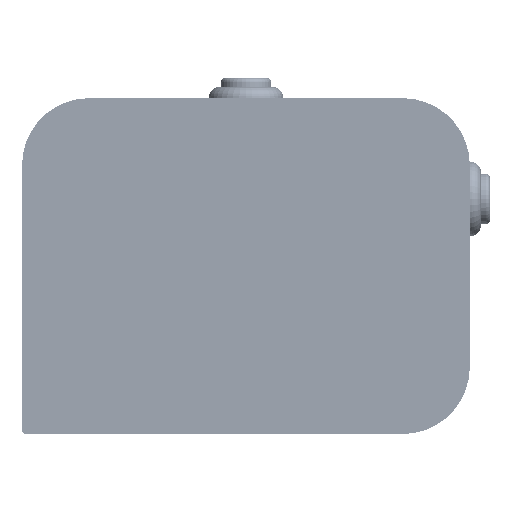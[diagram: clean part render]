
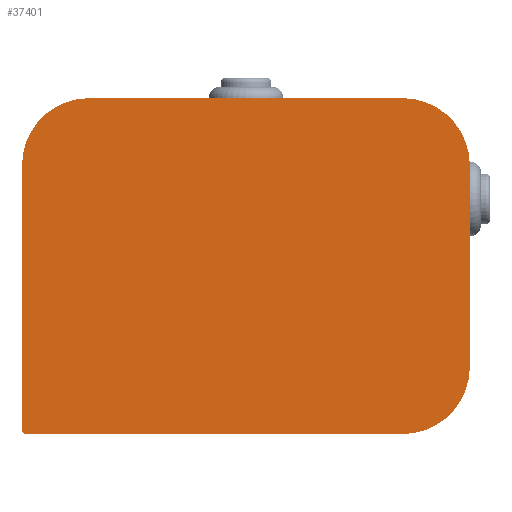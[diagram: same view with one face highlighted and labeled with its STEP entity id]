
A CAD part, front view. The second image highlights one B-rep face of the part: STEP entity #37401.
In plain terms, the highlighted planar face has unit normal (0, -1, 0).
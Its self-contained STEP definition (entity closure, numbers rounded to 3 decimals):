
#2124=PLANE('',#40065);
#3872=FACE_OUTER_BOUND('',#6124,.T.);
#6124=EDGE_LOOP('',(#29454,#29455,#29456,#29457,#29458,#29459,#29460,#29461));
#9521=LINE('',#57284,#13201);
#9536=LINE('',#57314,#13216);
#9537=LINE('',#57318,#13217);
#9538=LINE('',#57322,#13218);
#13201=VECTOR('',#46458,10.);
#13216=VECTOR('',#46475,10.);
#13217=VECTOR('',#46478,10.);
#13218=VECTOR('',#46481,10.);
#15154=CIRCLE('',#40062,2.);
#15156=CIRCLE('',#40066,30.);
#15157=CIRCLE('',#40067,30.);
#15158=CIRCLE('',#40068,30.);
#17507=VERTEX_POINT('',#57274);
#17508=VERTEX_POINT('',#57275);
#17511=VERTEX_POINT('',#57283);
#17525=VERTEX_POINT('',#57313);
#17526=VERTEX_POINT('',#57315);
#17527=VERTEX_POINT('',#57317);
#17528=VERTEX_POINT('',#57319);
#17529=VERTEX_POINT('',#57321);
#21815=EDGE_CURVE('',#17507,#17508,#15154,.T.);
#21819=EDGE_CURVE('',#17508,#17511,#9521,.T.);
#21834=EDGE_CURVE('',#17525,#17507,#9536,.T.);
#21835=EDGE_CURVE('',#17526,#17525,#15156,.T.);
#21836=EDGE_CURVE('',#17527,#17526,#9537,.T.);
#21837=EDGE_CURVE('',#17528,#17527,#15157,.T.);
#21838=EDGE_CURVE('',#17529,#17528,#9538,.T.);
#21839=EDGE_CURVE('',#17511,#17529,#15158,.T.);
#29454=ORIENTED_EDGE('',*,*,#21815,.F.);
#29455=ORIENTED_EDGE('',*,*,#21834,.F.);
#29456=ORIENTED_EDGE('',*,*,#21835,.F.);
#29457=ORIENTED_EDGE('',*,*,#21836,.F.);
#29458=ORIENTED_EDGE('',*,*,#21837,.F.);
#29459=ORIENTED_EDGE('',*,*,#21838,.F.);
#29460=ORIENTED_EDGE('',*,*,#21839,.F.);
#29461=ORIENTED_EDGE('',*,*,#21819,.F.);
#37401=ADVANCED_FACE('',(#3872),#2124,.F.);
#40062=AXIS2_PLACEMENT_3D('',#57276,#46450,#46451);
#40065=AXIS2_PLACEMENT_3D('',#57312,#46473,#46474);
#40066=AXIS2_PLACEMENT_3D('',#57316,#46476,#46477);
#40067=AXIS2_PLACEMENT_3D('',#57320,#46479,#46480);
#40068=AXIS2_PLACEMENT_3D('',#57323,#46482,#46483);
#46450=DIRECTION('center_axis',(0.,1.,0.));
#46451=DIRECTION('ref_axis',(-0.707,0.,-0.707));
#46458=DIRECTION('',(0.,0.,1.));
#46473=DIRECTION('center_axis',(0.,1.,0.));
#46474=DIRECTION('ref_axis',(1.,0.,0.));
#46475=DIRECTION('',(-1.,0.,0.));
#46476=DIRECTION('center_axis',(0.,1.,0.));
#46477=DIRECTION('ref_axis',(0.707,0.,-0.707));
#46478=DIRECTION('',(0.,0.,-1.));
#46479=DIRECTION('center_axis',(0.,1.,0.));
#46480=DIRECTION('ref_axis',(0.707,0.,0.707));
#46481=DIRECTION('',(1.,0.,0.));
#46482=DIRECTION('center_axis',(0.,1.,0.));
#46483=DIRECTION('ref_axis',(-0.707,0.,0.707));
#57274=CARTESIAN_POINT('',(-98.,0.,-75.));
#57275=CARTESIAN_POINT('',(-100.,0.,-73.));
#57276=CARTESIAN_POINT('Origin',(-98.,0.,-73.));
#57283=CARTESIAN_POINT('',(-100.,0.,45.));
#57284=CARTESIAN_POINT('',(-100.,0.,-75.));
#57312=CARTESIAN_POINT('Origin',(0.,0.,0.));
#57313=CARTESIAN_POINT('',(70.,0.,-75.));
#57314=CARTESIAN_POINT('',(-70.,0.,-75.));
#57315=CARTESIAN_POINT('',(100.,0.,-45.));
#57316=CARTESIAN_POINT('Origin',(70.,0.,-45.));
#57317=CARTESIAN_POINT('',(100.,0.,45.));
#57318=CARTESIAN_POINT('',(100.,0.,75.));
#57319=CARTESIAN_POINT('',(70.,0.,75.));
#57320=CARTESIAN_POINT('Origin',(70.,0.,45.));
#57321=CARTESIAN_POINT('',(-70.,0.,75.));
#57322=CARTESIAN_POINT('',(-100.,0.,75.));
#57323=CARTESIAN_POINT('Origin',(-70.,0.,45.));
